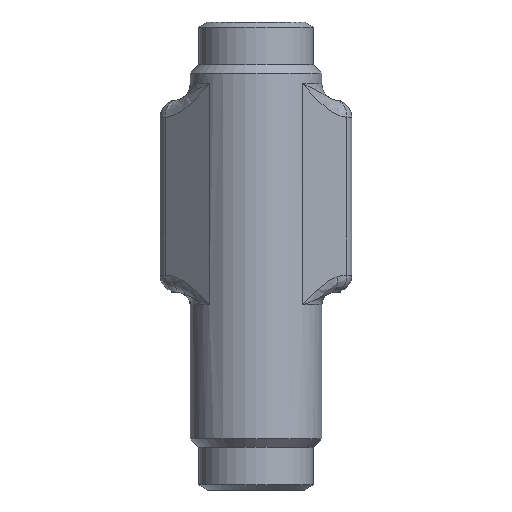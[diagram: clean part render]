
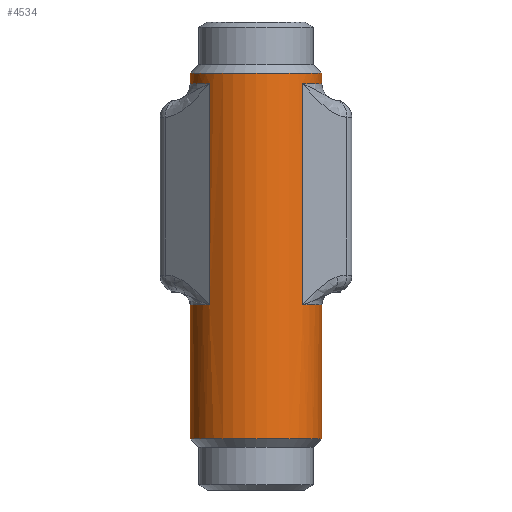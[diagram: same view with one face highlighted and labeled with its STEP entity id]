
A CAD part, front view. The second image highlights one B-rep face of the part: STEP entity #4534.
In plain terms, the highlighted cylindrical face has radius 15.5 mm (diameter 31 mm), a partial arc.
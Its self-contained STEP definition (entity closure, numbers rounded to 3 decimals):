
#90 = VERTEX_POINT ( 'NONE', #11633 ) ;
#162 = VERTEX_POINT ( 'NONE', #11701 ) ;
#267 = EDGE_CURVE ( 'NONE', #90, #7214, #11724, .T. ) ;
#706 = LINE ( 'NONE', #707, #709 ) ;
#707 = CARTESIAN_POINT ( 'NONE',  ( 15.5, 0., -45. ) ) ;
#709 = VECTOR ( 'NONE', #710, 1000. ) ;
#710 = DIRECTION ( 'NONE',  ( 0., 0., 1. ) ) ;
#778 = CARTESIAN_POINT ( 'NONE',  ( 10.96, -10.96, -48. ) ) ;
#785 = LINE ( 'NONE', #786, #787 ) ;
#786 = CARTESIAN_POINT ( 'NONE',  ( 15.5, 0., -45. ) ) ;
#787 = VECTOR ( 'NONE', #788, 1000. ) ;
#788 = DIRECTION ( 'NONE',  ( 0., 0., 1. ) ) ;
#815 = VERTEX_POINT ( 'NONE', #12080 ) ;
#861 = CIRCLE ( 'NONE', #862, 15.5 ) ;
#862 = AXIS2_PLACEMENT_3D ( 'NONE', #863, #864, #865 ) ;
#863 = CARTESIAN_POINT ( 'NONE',  ( 0., 0., -48. ) ) ;
#864 = DIRECTION ( 'NONE',  ( 0., 0., -1. ) ) ;
#865 = DIRECTION ( 'NONE',  ( 1., 0., 0. ) ) ;
#1213 = VERTEX_POINT ( 'NONE', #13454 ) ;
#1670 = EDGE_CURVE ( 'NONE', #162, #11422, #785, .T. ) ;
#2531 = ORIENTED_EDGE ( 'NONE', *, *, #267, .F. ) ;
#3017 = ORIENTED_EDGE ( 'NONE', *, *, #7634, .T. ) ;
#3674 = LINE ( 'NONE', #3675, #3676 ) ;
#3675 = CARTESIAN_POINT ( 'NONE',  ( -15.5, 0., -69.245 ) ) ;
#3676 = VECTOR ( 'NONE', #3677, 1000. ) ;
#3677 = DIRECTION ( 'NONE',  ( 0., 0., -1. ) ) ;
#4307 = EDGE_LOOP ( 'NONE', ( #11405, #11370, #11820, #11561, #13143, #12134, #11546, #11486, #11448, #11381, #3017, #2531, #15046, #13847 ) ) ;
#4534 = ADVANCED_FACE ( 'NONE', ( #7975 ), #7976, .T. ) ;
#5490 = CARTESIAN_POINT ( 'NONE',  ( -10.96, -10.96, 4. ) ) ;
#5557 = CIRCLE ( 'NONE', #5558, 15.5 ) ;
#5558 = AXIS2_PLACEMENT_3D ( 'NONE', #5559, #5560, #5561 ) ;
#5559 = CARTESIAN_POINT ( 'NONE',  ( 0., 0., 6.5 ) ) ;
#5560 = DIRECTION ( 'NONE',  ( 0., 0., -1. ) ) ;
#5561 = DIRECTION ( 'NONE',  ( 1., 0., 0. ) ) ;
#5655 = CARTESIAN_POINT ( 'NONE',  ( -15.5, 0., 4. ) ) ;
#5669 = CARTESIAN_POINT ( 'NONE',  ( 15.5, 0., -69.245 ) ) ;
#5877 = CIRCLE ( 'NONE', #5878, 15.5 ) ;
#5878 = AXIS2_PLACEMENT_3D ( 'NONE', #5879, #5880, #5881 ) ;
#5879 = CARTESIAN_POINT ( 'NONE',  ( 0., 0., 4. ) ) ;
#5880 = DIRECTION ( 'NONE',  ( 0., 0., 1. ) ) ;
#5881 = DIRECTION ( 'NONE',  ( 1., 0., 0. ) ) ;
#6066 = LINE ( 'NONE', #6067, #6068 ) ;
#6067 = CARTESIAN_POINT ( 'NONE',  ( -15.5, 0., -45. ) ) ;
#6068 = VECTOR ( 'NONE', #6069, 1000. ) ;
#6069 = DIRECTION ( 'NONE',  ( 0., 0., 1. ) ) ;
#6184 = CARTESIAN_POINT ( 'NONE',  ( -15.5, 0., -48. ) ) ;
#6824 = CIRCLE ( 'NONE', #6825, 15.5 ) ;
#6825 = AXIS2_PLACEMENT_3D ( 'NONE', #6826, #6827, #6828 ) ;
#6826 = CARTESIAN_POINT ( 'NONE',  ( 0., 0., -48. ) ) ;
#6827 = DIRECTION ( 'NONE',  ( 0., 0., -1. ) ) ;
#6828 = DIRECTION ( 'NONE',  ( 1., 0., 0. ) ) ;
#7214 = VERTEX_POINT ( 'NONE', #5490 ) ;
#7425 = VERTEX_POINT ( 'NONE', #5655 ) ;
#7634 = EDGE_CURVE ( 'NONE', #7425, #7214, #5877, .T. ) ;
#7635 = CARTESIAN_POINT ( 'NONE',  ( 15.5, 0., -48. ) ) ;
#7696 = CIRCLE ( 'NONE', #7697, 15.5 ) ;
#7697 = AXIS2_PLACEMENT_3D ( 'NONE', #7698, #7699, #7700 ) ;
#7698 = CARTESIAN_POINT ( 'NONE',  ( 0., 0., 4. ) ) ;
#7699 = DIRECTION ( 'NONE',  ( 0., 0., 1. ) ) ;
#7700 = DIRECTION ( 'NONE',  ( 1., 0., 0. ) ) ;
#7759 = LINE ( 'NONE', #7760, #7761 ) ;
#7760 = CARTESIAN_POINT ( 'NONE',  ( 15.5, 0., -69.245 ) ) ;
#7761 = VECTOR ( 'NONE', #7762, 1000. ) ;
#7762 = DIRECTION ( 'NONE',  ( 0., 0., -1. ) ) ;
#7975 = FACE_OUTER_BOUND ( 'NONE', #4307, .T. ) ;
#7976 = CYLINDRICAL_SURFACE ( 'NONE', #7977, 15.5 ) ;
#7977 = AXIS2_PLACEMENT_3D ( 'NONE', #7978, #7979, #7980 ) ;
#7978 = CARTESIAN_POINT ( 'NONE',  ( 0., 0., -45. ) ) ;
#7979 = DIRECTION ( 'NONE',  ( 0., 0., 1. ) ) ;
#7980 = DIRECTION ( 'NONE',  ( 1., 0., 0. ) ) ;
#8276 = CARTESIAN_POINT ( 'NONE',  ( -15.5, 0., 6.5 ) ) ;
#9942 = VERTEX_POINT ( 'NONE', #13297 ) ;
#10082 = EDGE_CURVE ( 'NONE', #1213, #9942, #13416, .T. ) ;
#10531 = EDGE_CURVE ( 'NONE', #815, #12350, #706, .T. ) ;
#11151 = CARTESIAN_POINT ( 'NONE',  ( 10.96, -10.96, 4. ) ) ;
#11370 = ORIENTED_EDGE ( 'NONE', *, *, #12316, .T. ) ;
#11381 = ORIENTED_EDGE ( 'NONE', *, *, #14351, .F. ) ;
#11405 = ORIENTED_EDGE ( 'NONE', *, *, #10082, .F. ) ;
#11414 = EDGE_CURVE ( 'NONE', #12350, #11571, #5557, .T. ) ;
#11422 = VERTEX_POINT ( 'NONE', #5669 ) ;
#11448 = ORIENTED_EDGE ( 'NONE', *, *, #11414, .T. ) ;
#11486 = ORIENTED_EDGE ( 'NONE', *, *, #10531, .T. ) ;
#11511 = VERTEX_POINT ( 'NONE', #7635 ) ;
#11521 = EDGE_CURVE ( 'NONE', #11593, #815, #7696, .T. ) ;
#11531 = EDGE_CURVE ( 'NONE', #11511, #11422, #7759, .T. ) ;
#11546 = ORIENTED_EDGE ( 'NONE', *, *, #11521, .T. ) ;
#11561 = ORIENTED_EDGE ( 'NONE', *, *, #11531, .F. ) ;
#11571 = VERTEX_POINT ( 'NONE', #8276 ) ;
#11593 = VERTEX_POINT ( 'NONE', #11151 ) ;
#11633 = CARTESIAN_POINT ( 'NONE',  ( -10.96, -10.96, -48. ) ) ;
#11701 = CARTESIAN_POINT ( 'NONE',  ( 15.5, 0., -79.5 ) ) ;
#11724 = LINE ( 'NONE', #11725, #11726 ) ;
#11725 = CARTESIAN_POINT ( 'NONE',  ( -10.96, -10.96, -45. ) ) ;
#11726 = VECTOR ( 'NONE', #11727, 1000. ) ;
#11727 = DIRECTION ( 'NONE',  ( 0., 0., 1. ) ) ;
#11784 = EDGE_CURVE ( 'NONE', #12626, #11593, #12058, .T. ) ;
#11820 = ORIENTED_EDGE ( 'NONE', *, *, #1670, .T. ) ;
#12058 = LINE ( 'NONE', #12059, #12060 ) ;
#12059 = CARTESIAN_POINT ( 'NONE',  ( 10.96, -10.96, -45. ) ) ;
#12060 = VECTOR ( 'NONE', #12061, 1000. ) ;
#12061 = DIRECTION ( 'NONE',  ( 0., 0., 1. ) ) ;
#12080 = CARTESIAN_POINT ( 'NONE',  ( 15.5, 0., 4. ) ) ;
#12134 = ORIENTED_EDGE ( 'NONE', *, *, #11784, .T. ) ;
#12316 = EDGE_CURVE ( 'NONE', #1213, #162, #13539, .T. ) ;
#12350 = VERTEX_POINT ( 'NONE', #13593 ) ;
#12626 = VERTEX_POINT ( 'NONE', #778 ) ;
#12832 = EDGE_CURVE ( 'NONE', #11511, #12626, #861, .T. ) ;
#13143 = ORIENTED_EDGE ( 'NONE', *, *, #12832, .T. ) ;
#13297 = CARTESIAN_POINT ( 'NONE',  ( -15.5, 0., -69.245 ) ) ;
#13416 = LINE ( 'NONE', #13417, #13418 ) ;
#13417 = CARTESIAN_POINT ( 'NONE',  ( -15.5, 0., -45. ) ) ;
#13418 = VECTOR ( 'NONE', #13419, 1000. ) ;
#13419 = DIRECTION ( 'NONE',  ( 0., 0., 1. ) ) ;
#13454 = CARTESIAN_POINT ( 'NONE',  ( -15.5, 0., -79.5 ) ) ;
#13502 = EDGE_CURVE ( 'NONE', #14488, #9942, #3674, .T. ) ;
#13539 = CIRCLE ( 'NONE', #13540, 15.5 ) ;
#13540 = AXIS2_PLACEMENT_3D ( 'NONE', #13541, #13542, #13543 ) ;
#13541 = CARTESIAN_POINT ( 'NONE',  ( 0., 0., -79.5 ) ) ;
#13542 = DIRECTION ( 'NONE',  ( 0., 0., 1. ) ) ;
#13543 = DIRECTION ( 'NONE',  ( -1., 0., 0. ) ) ;
#13593 = CARTESIAN_POINT ( 'NONE',  ( 15.5, 0., 6.5 ) ) ;
#13847 = ORIENTED_EDGE ( 'NONE', *, *, #13502, .T. ) ;
#14351 = EDGE_CURVE ( 'NONE', #7425, #11571, #6066, .T. ) ;
#14488 = VERTEX_POINT ( 'NONE', #6184 ) ;
#14701 = EDGE_CURVE ( 'NONE', #90, #14488, #6824, .T. ) ;
#15046 = ORIENTED_EDGE ( 'NONE', *, *, #14701, .T. ) ;
